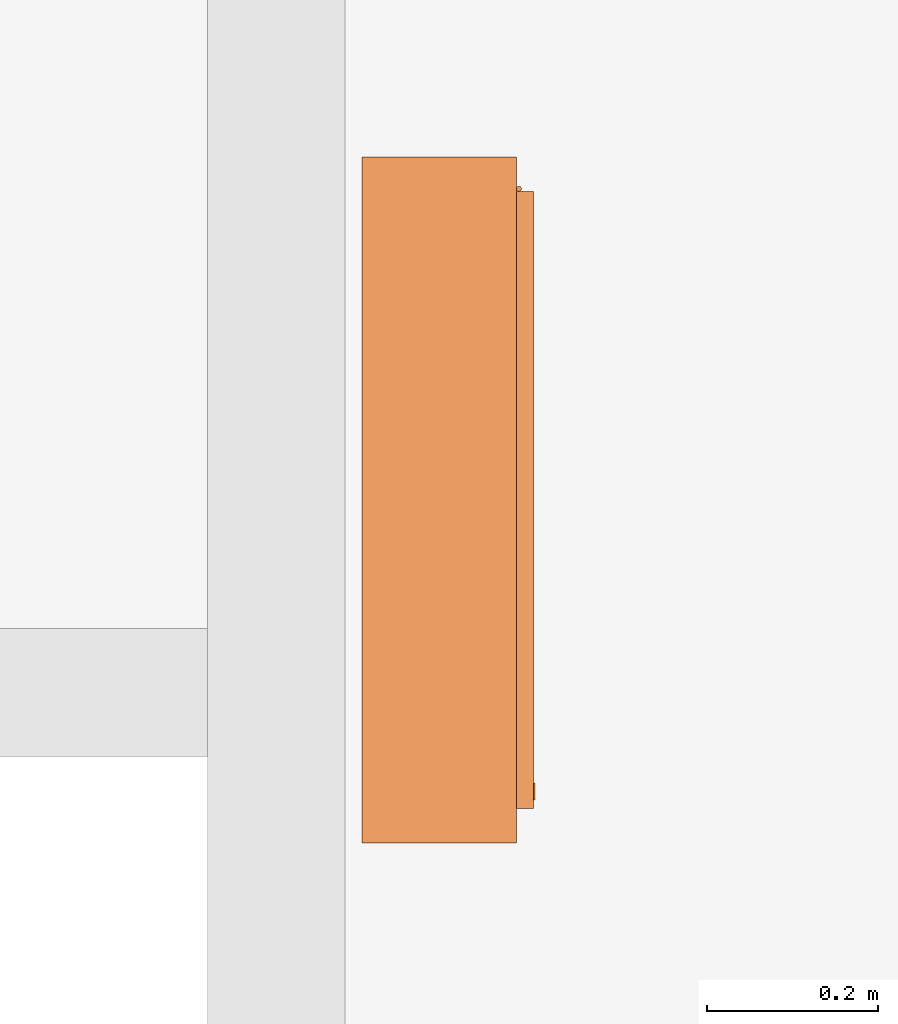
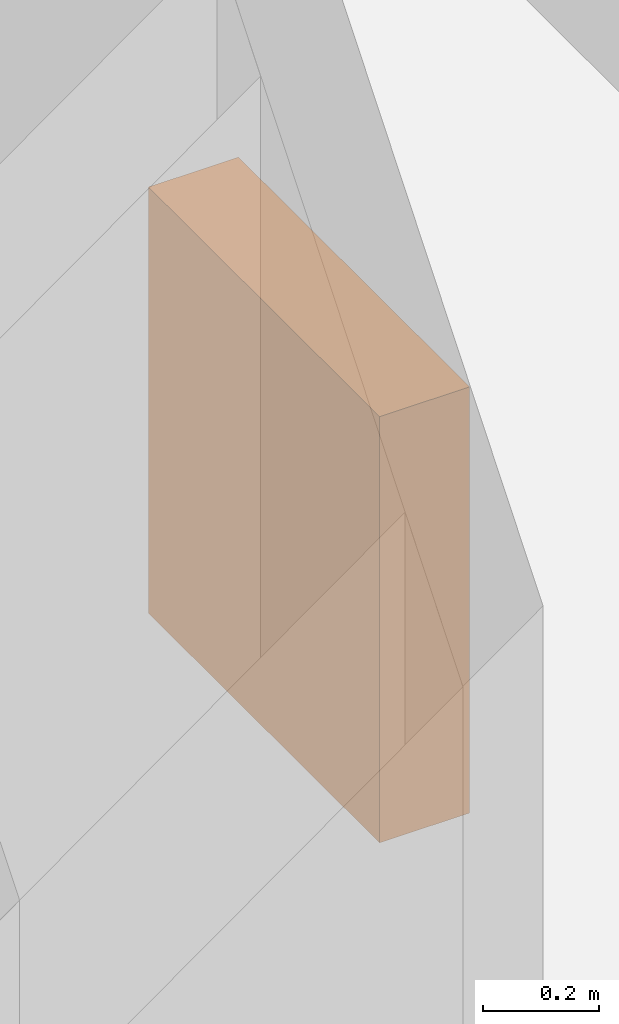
# One storey, part 16 of 67: 1 proxy.
"""IFC2X3 building model written with IfcOpenShell, lengths in millimetres."""

from ifc_helpers import new_model, entity, si_unit, converted_unit, derived_unit, money_unit, direction, frame, origin_with_axes, place, context, subcontext, project, spatial, faceted_brep, source, transform, mapped, type_object, element, save


model = new_model("IFC2X3")

# Units and contexts
model_context = context("Model", 3, precision=0.01, world=origin_with_axes(), true_north=direction((0.34421633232, 0.938890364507)))
body_context = subcontext(model_context, "Body", "Model", "MODEL_VIEW")
ifc_project = project(units=[si_unit("LENGTHUNIT", "METRE", prefix="MILLI"), si_unit("AREAUNIT", "SQUARE_METRE"), si_unit("VOLUMEUNIT", "CUBIC_METRE"), converted_unit("PLANEANGLEUNIT", "DEGREE", entity("IfcPlaneAngleMeasure", 0.0174532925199), si_unit("PLANEANGLEUNIT", "RADIAN"), dimensions=[0, 0, 0, 0, 0, 0, 0]), si_unit("SOLIDANGLEUNIT", "STERADIAN"), money_unit("USD"), converted_unit("TIMEUNIT", "Year", entity("IfcTimeMeasure", 31556926.0), si_unit("TIMEUNIT", "SECOND"), dimensions=[0, 0, 1, 0, 0, 0, 0]), si_unit("MASSUNIT", "GRAM", prefix="KILO"), si_unit("THERMODYNAMICTEMPERATUREUNIT", "DEGREE_CELSIUS"), si_unit("LUMINOUSINTENSITYUNIT", "LUMEN"), si_unit("ENERGYUNIT", "JOULE", prefix="MEGA"), derived_unit("THERMALCONDUCTANCEUNIT", [(si_unit("POWERUNIT", "WATT"), 1), (si_unit("LENGTHUNIT", "METRE"), -1), (si_unit("THERMODYNAMICTEMPERATUREUNIT", "KELVIN"), -1)]), derived_unit("SPECIFICHEATCAPACITYUNIT", [(si_unit("ENERGYUNIT", "JOULE"), 1), (si_unit("MASSUNIT", "GRAM", prefix="KILO"), -1), (si_unit("THERMODYNAMICTEMPERATUREUNIT", "KELVIN"), -1)]), derived_unit("MASSDENSITYUNIT", [(si_unit("MASSUNIT", "GRAM", prefix="KILO"), 1), (si_unit("VOLUMEUNIT", "CUBIC_METRE"), -1)])], contexts=[model_context])

# Site, building, storey
site_placement = place(None, origin_with_axes())
site = spatial("IfcSite", under=ifc_project, at=site_placement, Name="USTRONIE MORSKIE", CompositionType="ELEMENT")
building_placement = place(site_placement, origin_with_axes())
building = spatial("IfcBuilding", under=site, at=building_placement, Name="Budynek", CompositionType="ELEMENT")
storey_placement = place(building_placement, frame((0.0, 0.0, 4000.0), z_axis=(0.0, 0.0, 1.0), x_axis=(1.0, 0.0, 0.0)))
storey = spatial("IfcBuildingStorey", under=building, at=storey_placement, Name="PIĘTRO 1", CompositionType="ELEMENT", Elevation=4000.0)

# Proxy
building_element_proxy_type = type_object("IfcBuildingElementProxyType", Name="Skrzynka P-Poż 23", PredefinedType="NOTDEFINED")
shared_shape = source(origin_with_axes(), body_context, "Body", "Brep", [
    faceted_brep([(0.0, 40.0, 0.0), (0.0, 20.0, 0.0), (-800.0, 20.0, 0.0), (-800.0, 40.0, 0.0), (0.0, 40.0, 900.0), (0.0, 20.0, 900.0), (-800.0, 20.0, 900.0), (-60.0, 20.0, 60.0), (-740.0, 20.0, 60.0), (-740.0, 20.0, 840.0), (-60.0, 20.0, 840.0), (-800.0, 40.0, 900.0), (-60.0, 40.0, 60.0), (-60.0, 40.0, 840.0), (-740.0, 40.0, 840.0), (-740.0, 40.0, 60.0)], [[[0, 1, 2, 3]], [[4, 5, 1, 0]], [[1, 5, 6, 2], [7, 8, 9, 10]], [[3, 2, 6, 11]], [[0, 3, 11, 4], [12, 13, 14, 15]], [[11, 6, 5, 4]], [[15, 8, 7, 12]], [[14, 9, 8, 15]], [[13, 10, 9, 14]], [[12, 7, 10, 13]]]),
    faceted_brep([(-40.0, 20.0, 40.0), (-40.0, 0.0, 40.0), (-760.0, 0.0, 40.0), (-760.0, 20.0, 40.0), (-40.0, 20.0, 860.0), (-40.0, 0.0, 860.0), (-760.0, 0.0, 860.0), (-80.0, 0.0, 80.0), (-720.0, 0.0, 80.0), (-720.0, 0.0, 820.0), (-80.0, 0.0, 820.0), (-760.0, 20.0, 860.0), (-80.0, 20.0, 80.0), (-80.0, 20.0, 820.0), (-720.0, 20.0, 820.0), (-720.0, 20.0, 80.0)], [[[0, 1, 2, 3]], [[4, 5, 1, 0]], [[1, 5, 6, 2], [7, 8, 9, 10]], [[3, 2, 6, 11]], [[0, 3, 11, 4], [12, 13, 14, 15]], [[11, 6, 5, 4]], [[15, 8, 7, 12]], [[14, 9, 8, 15]], [[13, 10, 9, 14]], [[12, 7, 10, 13]]]),
    faceted_brep([(0.0, 180.0, 0.0), (0.0, 40.0, 0.0), (-800.0, 40.0, 0.0), (-800.0, 180.0, 0.0), (0.0, 180.0, 900.0), (0.0, 40.0, 900.0), (-800.0, 40.0, 900.0), (-20.0, 40.0, 20.0), (-780.0, 40.0, 20.0), (-780.0, 40.0, 880.0), (-20.0, 40.0, 880.0), (-800.0, 180.0, 900.0), (-20.0, 180.0, 20.0), (-20.0, 180.0, 880.0), (-780.0, 180.0, 880.0), (-780.0, 180.0, 20.0)], [[[0, 1, 2, 3]], [[4, 5, 1, 0]], [[1, 5, 6, 2], [7, 8, 9, 10]], [[3, 2, 6, 11]], [[0, 3, 11, 4], [12, 13, 14, 15]], [[11, 6, 5, 4]], [[15, 8, 7, 12]], [[14, 9, 8, 15]], [[13, 10, 9, 14]], [[12, 7, 10, 13]]]),
    faceted_brep([(0.0, 200.0, 0.0), (0.0, 180.0, 0.0), (-800.0, 180.0, 0.0), (-800.0, 200.0, 0.0), (0.0, 200.0, 900.0), (0.0, 180.0, 900.0), (-800.0, 180.0, 900.0), (-800.0, 200.0, 900.0)], [[[0, 1, 2, 3]], [[4, 5, 1, 0]], [[1, 5, 6, 2]], [[3, 2, 6, 7]], [[0, 3, 7, 4]], [[7, 6, 5, 4]]]),
    faceted_brep([(-80.0, 15.0, 80.0), (-80.0, 5.0, 80.0), (-720.0, 5.0, 80.0), (-720.0, 15.0, 80.0), (-80.0, 15.0, 820.0), (-80.0, 5.0, 820.0), (-720.0, 5.0, 820.0), (-720.0, 15.0, 820.0)], [[[0, 1, 2, 3]], [[4, 5, 1, 0]], [[1, 5, 6, 2]], [[3, 2, 6, 7]], [[0, 3, 7, 4]], [[7, 6, 5, 4]]]),
    faceted_brep([(-749.659258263, 0.0, 447.411809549), (-750.0, 0.0, 450.0), (-749.659258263, 0.0, 452.588190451), (-748.660254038, 0.0, 455.0), (-747.071067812, 0.0, 457.071067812), (-745.0, 0.0, 458.660254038), (-742.588190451, 0.0, 459.659258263), (-740.0, 0.0, 460.0), (-737.411809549, 0.0, 459.659258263), (-735.0, 0.0, 458.660254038), (-732.928932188, 0.0, 457.071067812), (-731.339745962, 0.0, 455.0), (-730.340741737, 0.0, 452.588190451), (-730.0, 0.0, 450.0), (-730.340741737, 0.0, 447.411809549), (-731.339745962, 0.0, 445.0), (-732.928932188, 0.0, 442.928932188), (-735.0, 0.0, 441.339745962), (-737.411809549, 0.0, 440.340741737), (-740.0, 0.0, 440.0), (-742.588190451, 0.0, 440.340741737), (-745.0, 0.0, 441.339745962), (-747.071067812, 0.0, 442.928932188), (-748.660254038, 0.0, 445.0), (-749.659258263, -2.0, 447.411809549), (-750.0, -2.0, 450.0), (-749.659258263, -2.0, 452.588190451), (-748.660254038, -2.0, 455.0), (-747.071067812, -2.0, 457.071067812), (-745.0, -2.0, 458.660254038), (-742.588190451, -2.0, 459.659258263), (-740.0, -2.0, 460.0), (-737.411809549, -2.0, 459.659258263), (-735.0, -2.0, 458.660254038), (-732.928932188, -2.0, 457.071067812), (-731.339745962, -2.0, 455.0), (-730.340741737, -2.0, 452.588190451), (-730.0, -2.0, 450.0), (-730.340741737, -2.0, 447.411809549), (-731.339745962, -2.0, 445.0), (-732.928932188, -2.0, 442.928932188), (-735.0, -2.0, 441.339745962), (-737.411809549, -2.0, 440.340741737), (-740.0, -2.0, 440.0), (-742.588190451, -2.0, 440.340741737), (-745.0, -2.0, 441.339745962), (-747.071067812, -2.0, 442.928932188), (-748.660254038, -2.0, 445.0)], [[[0, 1, 2, 3, 4, 5, 6, 7, 8, 9, 10, 11, 12, 13, 14, 15, 16, 17, 18, 19, 20, 21, 22, 23]], [[0, 24, 25, 1]], [[1, 25, 26, 2]], [[2, 26, 27, 3]], [[3, 27, 28, 4]], [[4, 28, 29, 5]], [[5, 29, 30, 6]], [[6, 30, 31, 7]], [[7, 31, 32, 8]], [[8, 32, 33, 9]], [[9, 33, 34, 10]], [[10, 34, 35, 11]], [[11, 35, 36, 12]], [[12, 36, 37, 13]], [[13, 37, 38, 14]], [[14, 38, 39, 15]], [[15, 39, 40, 16]], [[16, 40, 41, 17]], [[17, 41, 42, 18]], [[18, 42, 43, 19]], [[19, 43, 44, 20]], [[20, 44, 45, 21]], [[21, 45, 46, 22]], [[22, 46, 47, 23]], [[23, 47, 24, 0]], [[24, 47, 46, 45, 44, 43, 42, 41, 40, 39, 38, 37, 36, 35, 34, 33, 32, 31, 30, 29, 28, 27, 26, 25]]]),
    faceted_brep([(-39.8977774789, 16.2235428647, 80.0), (-40.0, 17.0, 80.0), (-39.8977774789, 17.7764571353, 80.0), (-39.5980762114, 18.5, 80.0), (-39.1213203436, 19.1213203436, 80.0), (-38.5, 19.5980762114, 80.0), (-37.7764571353, 19.8977774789, 80.0), (-37.0, 20.0, 80.0), (-36.2235428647, 19.8977774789, 80.0), (-35.5, 19.5980762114, 80.0), (-34.8786796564, 19.1213203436, 80.0), (-34.4019237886, 18.5, 80.0), (-34.1022225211, 17.7764571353, 80.0), (-34.0, 17.0, 80.0), (-34.1022225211, 16.2235428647, 80.0), (-34.4019237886, 15.5, 80.0), (-34.8786796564, 14.8786796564, 80.0), (-35.5, 14.4019237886, 80.0), (-36.2235428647, 14.1022225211, 80.0), (-37.0, 14.0, 80.0), (-37.7764571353, 14.1022225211, 80.0), (-38.5, 14.4019237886, 80.0), (-39.1213203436, 14.8786796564, 80.0), (-39.5980762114, 15.5, 80.0), (-39.8977774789, 16.2235428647, 120.0), (-40.0, 17.0, 120.0), (-39.8977774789, 17.7764571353, 120.0), (-39.5980762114, 18.5, 120.0), (-39.1213203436, 19.1213203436, 120.0), (-38.5, 19.5980762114, 120.0), (-37.7764571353, 19.8977774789, 120.0), (-37.0, 20.0, 120.0), (-36.2235428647, 19.8977774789, 120.0), (-35.5, 19.5980762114, 120.0), (-34.8786796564, 19.1213203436, 120.0), (-34.4019237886, 18.5, 120.0), (-34.1022225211, 17.7764571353, 120.0), (-34.0, 17.0, 120.0), (-34.1022225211, 16.2235428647, 120.0), (-34.4019237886, 15.5, 120.0), (-34.8786796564, 14.8786796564, 120.0), (-35.5, 14.4019237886, 120.0), (-36.2235428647, 14.1022225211, 120.0), (-37.0, 14.0, 120.0), (-37.7764571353, 14.1022225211, 120.0), (-38.5, 14.4019237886, 120.0), (-39.1213203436, 14.8786796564, 120.0), (-39.5980762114, 15.5, 120.0)], [[[0, 1, 2, 3, 4, 5, 6, 7, 8, 9, 10, 11, 12, 13, 14, 15, 16, 17, 18, 19, 20, 21, 22, 23]], [[0, 24, 25, 1]], [[1, 25, 26, 2]], [[2, 26, 27, 3]], [[3, 27, 28, 4]], [[4, 28, 29, 5]], [[5, 29, 30, 6]], [[6, 30, 31, 7]], [[7, 31, 32, 8]], [[8, 32, 33, 9]], [[9, 33, 34, 10]], [[10, 34, 35, 11]], [[11, 35, 36, 12]], [[12, 36, 37, 13]], [[13, 37, 38, 14]], [[14, 38, 39, 15]], [[15, 39, 40, 16]], [[16, 40, 41, 17]], [[17, 41, 42, 18]], [[18, 42, 43, 19]], [[19, 43, 44, 20]], [[20, 44, 45, 21]], [[21, 45, 46, 22]], [[22, 46, 47, 23]], [[23, 47, 24, 0]], [[24, 47, 46, 45, 44, 43, 42, 41, 40, 39, 38, 37, 36, 35, 34, 33, 32, 31, 30, 29, 28, 27, 26, 25]]]),
    faceted_brep([(-39.8977774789, 16.2235428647, 780.0), (-40.0, 17.0, 780.0), (-39.8977774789, 17.7764571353, 780.0), (-39.5980762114, 18.5, 780.0), (-39.1213203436, 19.1213203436, 780.0), (-38.5, 19.5980762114, 780.0), (-37.7764571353, 19.8977774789, 780.0), (-37.0, 20.0, 780.0), (-36.2235428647, 19.8977774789, 780.0), (-35.5, 19.5980762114, 780.0), (-34.8786796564, 19.1213203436, 780.0), (-34.4019237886, 18.5, 780.0), (-34.1022225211, 17.7764571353, 780.0), (-34.0, 17.0, 780.0), (-34.1022225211, 16.2235428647, 780.0), (-34.4019237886, 15.5, 780.0), (-34.8786796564, 14.8786796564, 780.0), (-35.5, 14.4019237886, 780.0), (-36.2235428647, 14.1022225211, 780.0), (-37.0, 14.0, 780.0), (-37.7764571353, 14.1022225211, 780.0), (-38.5, 14.4019237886, 780.0), (-39.1213203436, 14.8786796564, 780.0), (-39.5980762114, 15.5, 780.0), (-39.8977774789, 16.2235428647, 820.0), (-40.0, 17.0, 820.0), (-39.8977774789, 17.7764571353, 820.0), (-39.5980762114, 18.5, 820.0), (-39.1213203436, 19.1213203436, 820.0), (-38.5, 19.5980762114, 820.0), (-37.7764571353, 19.8977774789, 820.0), (-37.0, 20.0, 820.0), (-36.2235428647, 19.8977774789, 820.0), (-35.5, 19.5980762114, 820.0), (-34.8786796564, 19.1213203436, 820.0), (-34.4019237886, 18.5, 820.0), (-34.1022225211, 17.7764571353, 820.0), (-34.0, 17.0, 820.0), (-34.1022225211, 16.2235428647, 820.0), (-34.4019237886, 15.5, 820.0), (-34.8786796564, 14.8786796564, 820.0), (-35.5, 14.4019237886, 820.0), (-36.2235428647, 14.1022225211, 820.0), (-37.0, 14.0, 820.0), (-37.7764571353, 14.1022225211, 820.0), (-38.5, 14.4019237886, 820.0), (-39.1213203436, 14.8786796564, 820.0), (-39.5980762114, 15.5, 820.0)], [[[0, 1, 2, 3, 4, 5, 6, 7, 8, 9, 10, 11, 12, 13, 14, 15, 16, 17, 18, 19, 20, 21, 22, 23]], [[0, 24, 25, 1]], [[1, 25, 26, 2]], [[2, 26, 27, 3]], [[3, 27, 28, 4]], [[4, 28, 29, 5]], [[5, 29, 30, 6]], [[6, 30, 31, 7]], [[7, 31, 32, 8]], [[8, 32, 33, 9]], [[9, 33, 34, 10]], [[10, 34, 35, 11]], [[11, 35, 36, 12]], [[12, 36, 37, 13]], [[13, 37, 38, 14]], [[14, 38, 39, 15]], [[15, 39, 40, 16]], [[16, 40, 41, 17]], [[17, 41, 42, 18]], [[18, 42, 43, 19]], [[19, 43, 44, 20]], [[20, 44, 45, 21]], [[21, 45, 46, 22]], [[22, 46, 47, 23]], [[23, 47, 24, 0]], [[24, 47, 46, 45, 44, 43, 42, 41, 40, 39, 38, 37, 36, 35, 34, 33, 32, 31, 30, 29, 28, 27, 26, 25]]]),
])
proxy_placement = place(storey_placement, frame((357817.920919, 728201.202998, 600.0), z_axis=(0.0, 0.0, 1.0), x_axis=(0.0, 1.0, 0.0)))
element("IfcBuildingElementProxy", 1, at=proxy_placement, inside=storey, type_object=building_element_proxy_type, Name="OB3", context=body_context, shape_type="MappedRepresentation", body=[
    mapped(shared_shape, transform((0.0, 0.0, 0.0))),
])

save(model, "model.ifc")
